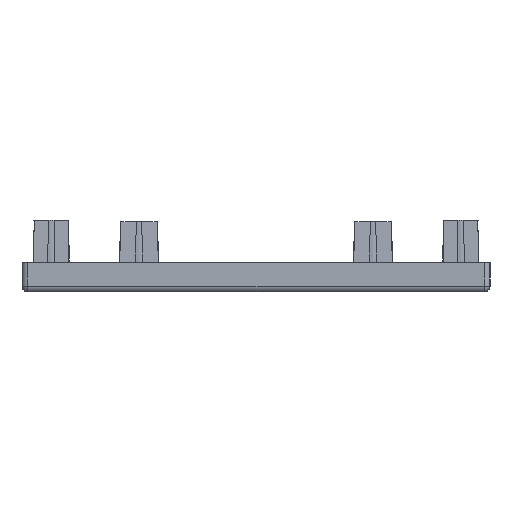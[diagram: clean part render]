
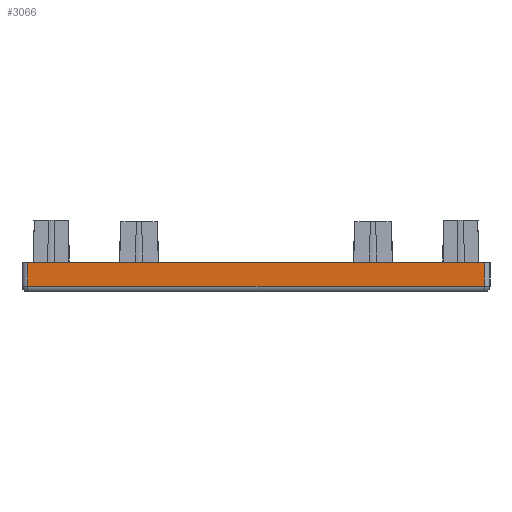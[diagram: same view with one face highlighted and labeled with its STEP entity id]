
A CAD part, left-side view. The second image highlights one B-rep face of the part: STEP entity #3066.
In plain terms, the highlighted planar face has unit normal (-1, 0, 0).
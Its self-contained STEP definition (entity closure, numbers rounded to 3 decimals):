
#21 = VECTOR ( 'NONE', #3182, 1000. ) ;
#53 = CARTESIAN_POINT ( 'NONE',  ( -80., 39., 1. ) ) ;
#61 = FACE_OUTER_BOUND ( 'NONE', #494, .T. ) ;
#109 = LINE ( 'NONE', #876, #763 ) ;
#138 = CARTESIAN_POINT ( 'NONE',  ( -80., -40., 5. ) ) ;
#171 = AXIS2_PLACEMENT_3D ( 'NONE', #138, #3187, #1514 ) ;
#206 = VERTEX_POINT ( 'NONE', #350 ) ;
#350 = CARTESIAN_POINT ( 'NONE',  ( -80., -39., 1. ) ) ;
#400 = ORIENTED_EDGE ( 'NONE', *, *, #2289, .T. ) ;
#423 = VECTOR ( 'NONE', #2866, 1000. ) ;
#445 = ORIENTED_EDGE ( 'NONE', *, *, #2752, .T. ) ;
#494 = EDGE_LOOP ( 'NONE', ( #2982, #3420, #400, #445 ) ) ;
#690 = VERTEX_POINT ( 'NONE', #2648 ) ;
#762 = LINE ( 'NONE', #966, #21 ) ;
#763 = VECTOR ( 'NONE', #2247, 1000. ) ;
#876 = CARTESIAN_POINT ( 'NONE',  ( -80., -40., 1. ) ) ;
#966 = CARTESIAN_POINT ( 'NONE',  ( -80., 39., 5. ) ) ;
#1456 = VERTEX_POINT ( 'NONE', #2942 ) ;
#1514 = DIRECTION ( 'NONE',  ( 0., 0., -1. ) ) ;
#1772 = PLANE ( 'NONE',  #171 ) ;
#2247 = DIRECTION ( 'NONE',  ( 0., -1., 0. ) ) ;
#2284 = CARTESIAN_POINT ( 'NONE',  ( -80., -40., 5. ) ) ;
#2289 = EDGE_CURVE ( 'NONE', #2865, #206, #109, .T. ) ;
#2396 = VECTOR ( 'NONE', #2745, 1000. ) ;
#2402 = EDGE_CURVE ( 'NONE', #1456, #690, #2622, .T. ) ;
#2622 = LINE ( 'NONE', #2284, #423 ) ;
#2648 = CARTESIAN_POINT ( 'NONE',  ( -80., -39., 5. ) ) ;
#2745 = DIRECTION ( 'NONE',  ( 0., 0., 1. ) ) ;
#2752 = EDGE_CURVE ( 'NONE', #206, #690, #3307, .T. ) ;
#2865 = VERTEX_POINT ( 'NONE', #53 ) ;
#2866 = DIRECTION ( 'NONE',  ( 0., -1., 0. ) ) ;
#2942 = CARTESIAN_POINT ( 'NONE',  ( -80., 39., 5. ) ) ;
#2982 = ORIENTED_EDGE ( 'NONE', *, *, #2402, .F. ) ;
#3066 = ADVANCED_FACE ( 'NONE', ( #61 ), #1772, .F. ) ;
#3182 = DIRECTION ( 'NONE',  ( 0., 0., -1. ) ) ;
#3187 = DIRECTION ( 'NONE',  ( 1., 0., 0. ) ) ;
#3307 = LINE ( 'NONE', #3543, #2396 ) ;
#3420 = ORIENTED_EDGE ( 'NONE', *, *, #3537, .T. ) ;
#3537 = EDGE_CURVE ( 'NONE', #1456, #2865, #762, .T. ) ;
#3543 = CARTESIAN_POINT ( 'NONE',  ( -80., -39., 5. ) ) ;
